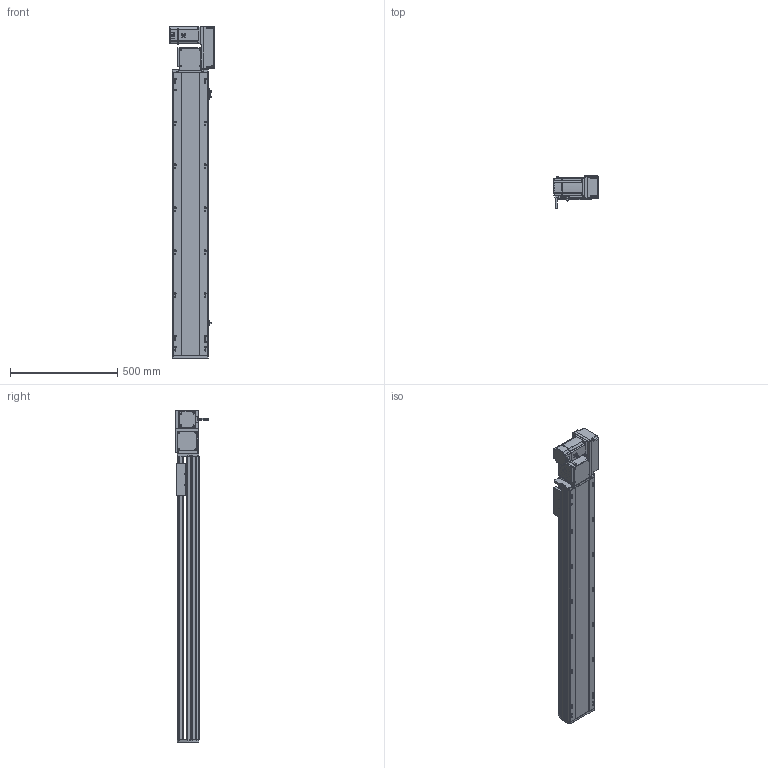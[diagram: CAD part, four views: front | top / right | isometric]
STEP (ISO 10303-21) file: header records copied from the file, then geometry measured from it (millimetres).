
FILE_DESCRIPTION (( 'STEP AP214' ), '1' );
FILE_NAME ('RTB17S-XX-1050-R-M75-C4.STEP', '2025-12-12T01:35:49', ( '' ), ( '' ), 'SwSTEP 2.0', 'SolidWorks 2018', '' );
FILE_SCHEMA (( 'AUTOMOTIVE_DESIGN' ));
Length unit declared in the file: millimetre
Products named in the file (15): RTB17S-賑釱^RTB17S-XX-XX-R-M75-C4; RTB17S-R-々湍釱蚾饜-750W^RTB17S-XX-XX-R-M75-C4; RTB22S-GY-018P^RTB17S-R-々湍釱蚾饜-750W_RTB17S-XX-XX-R-M75-C4; RTB17S-L-004-賑釱^RTB17S-賑釱_RTB17S-XX-XX-R-M75-C4; EE672^RTB17S-XX-XX-R-M75-C4; 750W萇儂^RTB17S-XX-XX-R-M75-C4; RTH13-BL-012覜茼え俋离^RTB17S-賑釱_RTB17S-XX-XX-R-M75-C4; RTB17-R-011菁釱^RTB17S-XX-XX-R-M75-C4; RTB22S-GY-005P^RTB17S-R-々湍釱蚾饜-750W_RTB17S-XX-XX-R-M75-C4; RTB17S-XX-1050-R-M75-C4; RTB17S-L-007奻裔^RTB17S-XX-XX-R-M75-C4; RTB22S-GY-017P^RTB17S-R-々湍釱蚾饜-750W_RTB17S-XX-XX-R-M75-C4; RTB17S-L-001-耜醱啣^RTB17S-XX-XX-R-M75-C4; RTB17S-L-014-T20-P75--々湍釱^RTB17S-R-々湍釱蚾饜-750W_RTB17S-XX-XX-R-M75-C4; RTB22S-GY-008-M75--萇儂啣^RTB17S-R-々湍釱蚾饜-750W_RTB17S-XX-XX-R-M75-C4
Assembly tree (17 placements, depth 3):
  RTB17S-XX-1050-R-M75-C4
    RTB17-R-011菁釱^RTB17S-XX-XX-R-M75-C4
    EE672^RTB17S-XX-XX-R-M75-C4  x3
    RTB17S-L-001-耜醱啣^RTB17S-XX-XX-R-M75-C4
    RTB17S-賑釱^RTB17S-XX-XX-R-M75-C4
      RTB17S-L-004-賑釱^RTB17S-賑釱_RTB17S-XX-XX-R-M75-C4
      RTH13-BL-012覜茼え俋离^RTB17S-賑釱_RTB17S-XX-XX-R-M75-C4
    RTB17S-L-007奻裔^RTB17S-XX-XX-R-M75-C4
    750W萇儂^RTB17S-XX-XX-R-M75-C4
    RTB17S-R-々湍釱蚾饜-750W^RTB17S-XX-XX-R-M75-C4
      RTB17S-L-014-T20-P75--々湍釱^RTB17S-R-々湍釱蚾饜-750W_RTB17S-XX-XX-R-M75-C4
      RTB22S-GY-005P^RTB17S-R-々湍釱蚾饜-750W_RTB17S-XX-XX-R-M75-C4
      RTB22S-GY-017P^RTB17S-R-々湍釱蚾饜-750W_RTB17S-XX-XX-R-M75-C4  x2
      RTB22S-GY-008-M75--萇儂啣^RTB17S-R-々湍釱蚾饜-750W_RTB17S-XX-XX-R-M75-C4
      RTB22S-GY-018P^RTB17S-R-々湍釱蚾饜-750W_RTB17S-XX-XX-R-M75-C4
Bounding box: 207.4 x 152.7 x 1549 mm (x, y, z)
Volume: 12508454.8 mm3; surface area: 2134134.2 mm2
Topology: 17 solids, 17 shells, 2105 faces, 5836 edges, 3770 vertices
Faces by surface type: plane 972, cylinder 717, bspline 294, cone 110, sphere 8, torus 4
Entity records: 58870 total; most frequent: CARTESIAN_POINT 17300, ORIENTED_EDGE 8516, DIRECTION 7952, EDGE_CURVE 4258, AXIS2_PLACEMENT_3D 2790, VERTEX_POINT 2774, VECTOR 2372, LINE 2372
